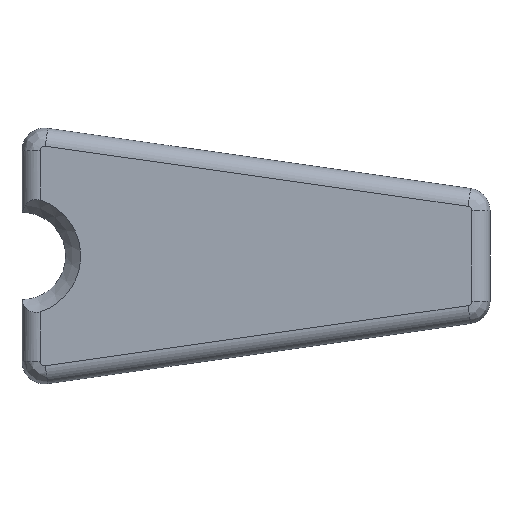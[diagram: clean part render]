
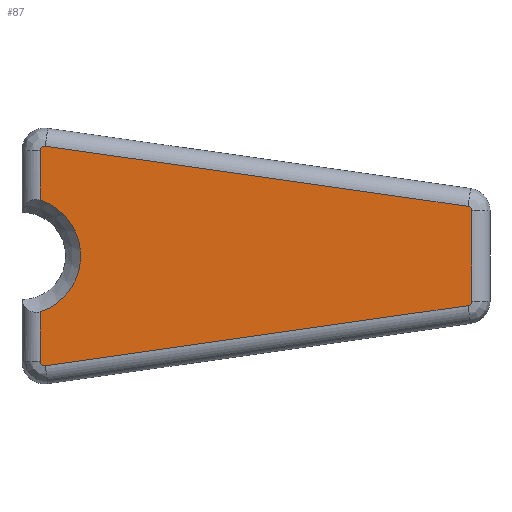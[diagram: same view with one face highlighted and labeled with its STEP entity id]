
A CAD part, top view. The second image highlights one B-rep face of the part: STEP entity #87.
In plain terms, the highlighted planar face has unit normal (0, 0, 1).
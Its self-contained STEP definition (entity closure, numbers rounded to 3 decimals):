
#87=ADVANCED_FACE('',(#170),#171,.T.);
#170=FACE_OUTER_BOUND('',#422,.T.);
#171=PLANE('',#423);
#422=EDGE_LOOP('',(#574,#575,#576,#577,#578,#579,#580,#581,#582,#583));
#423=AXIS2_PLACEMENT_3D('',#584,#585,#586);
#574=ORIENTED_EDGE('',*,*,#629,.T.);
#575=ORIENTED_EDGE('',*,*,#625,.T.);
#576=ORIENTED_EDGE('',*,*,#643,.T.);
#577=ORIENTED_EDGE('',*,*,#613,.T.);
#578=ORIENTED_EDGE('',*,*,#666,.T.);
#579=ORIENTED_EDGE('',*,*,#661,.T.);
#580=ORIENTED_EDGE('',*,*,#648,.T.);
#581=ORIENTED_EDGE('',*,*,#671,.T.);
#582=ORIENTED_EDGE('',*,*,#678,.T.);
#583=ORIENTED_EDGE('',*,*,#682,.T.);
#584=CARTESIAN_POINT('',(140.5,30.0,12.0));
#585=DIRECTION('',(0.0,0.0,1.0));
#586=DIRECTION('',(1.0,0.0,0.0));
#613=EDGE_CURVE('',#695,#693,#696,.T.);
#625=EDGE_CURVE('',#709,#713,#715,.T.);
#629=EDGE_CURVE('',#717,#709,#721,.T.);
#643=EDGE_CURVE('',#713,#695,#741,.F.);
#648=EDGE_CURVE('',#743,#748,#750,.T.);
#661=EDGE_CURVE('',#766,#743,#769,.T.);
#666=EDGE_CURVE('',#693,#766,#775,.T.);
#671=EDGE_CURVE('',#748,#779,#781,.T.);
#678=EDGE_CURVE('',#779,#788,#790,.T.);
#682=EDGE_CURVE('',#788,#717,#794,.T.);
#693=VERTEX_POINT('',#809);
#695=VERTEX_POINT('',#811);
#696=LINE('',#812,#813);
#709=VERTEX_POINT('',#862);
#713=VERTEX_POINT('',#867);
#715=LINE('',#894,#895);
#717=VERTEX_POINT('',#897);
#721=CIRCLE('',#901,3.0);
#741=CIRCLE('',#975,39.0);
#743=VERTEX_POINT('',#977);
#748=VERTEX_POINT('',#982);
#750=CIRCLE('',#984,3.0);
#766=VERTEX_POINT('',#1002);
#769=LINE('',#1006,#1007);
#775=CIRCLE('',#1013,3.0);
#779=VERTEX_POINT('',#1018);
#781=LINE('',#1020,#1021);
#788=VERTEX_POINT('',#1030);
#790=CIRCLE('',#1032,3.0);
#794=LINE('',#1036,#1037);
#809=CARTESIAN_POINT('',(-143.5,-70.0,12.0));
#811=CARTESIAN_POINT('',(-143.5,-37.108,12.0));
#812=CARTESIAN_POINT('',(-143.5,30.0,12.0));
#813=VECTOR('',#1046,1.0);
#862=CARTESIAN_POINT('',(-143.5,70.0,12.0));
#867=CARTESIAN_POINT('',(-143.5,37.108,12.0));
#894=CARTESIAN_POINT('',(-143.5,30.0,12.0));
#895=VECTOR('',#1057,1.0);
#897=CARTESIAN_POINT('',(-140.077,72.97,12.0));
#901=AXIS2_PLACEMENT_3D('',#1064,#1065,#1066);
#975=AXIS2_PLACEMENT_3D('',#1084,#1085,#1086);
#977=CARTESIAN_POINT('',(140.923,-32.97,12.0));
#982=CARTESIAN_POINT('',(143.5,-30.0,12.0));
#984=AXIS2_PLACEMENT_3D('',#1096,#1097,#1098);
#1002=CARTESIAN_POINT('',(-140.077,-72.97,12.0));
#1006=CARTESIAN_POINT('',(149.294,-31.778,12.0));
#1007=VECTOR('',#1120,1.0);
#1013=AXIS2_PLACEMENT_3D('',#1127,#1128,#1129);
#1018=CARTESIAN_POINT('',(143.5,30.0,12.0));
#1020=CARTESIAN_POINT('',(143.5,30.0,12.0));
#1021=VECTOR('',#1134,1.0);
#1030=CARTESIAN_POINT('',(140.923,32.97,12.0));
#1032=AXIS2_PLACEMENT_3D('',#1143,#1144,#1145);
#1036=CARTESIAN_POINT('',(140.923,32.97,12.0));
#1037=VECTOR('',#1149,1.0);
#1046=DIRECTION('',(0.,-1.0,0.0));
#1057=DIRECTION('',(0.,-1.0,0.0));
#1064=CARTESIAN_POINT('',(-140.5,70.0,12.0));
#1065=DIRECTION('',(0.0,0.0,1.0));
#1066=DIRECTION('',(1.0,0.0,0.0));
#1084=CARTESIAN_POINT('',(-155.5,0.0,12.0));
#1085=DIRECTION('',(0.0,0.0,1.0));
#1086=DIRECTION('',(1.0,0.0,0.0));
#1096=CARTESIAN_POINT('',(140.5,-30.0,12.0));
#1097=DIRECTION('',(0.0,0.0,1.0));
#1098=DIRECTION('',(1.0,0.0,0.0));
#1120=DIRECTION('',(0.99,0.141,0.0));
#1127=CARTESIAN_POINT('',(-140.5,-70.0,12.0));
#1128=DIRECTION('',(0.0,0.0,1.0));
#1129=DIRECTION('',(1.0,0.0,0.0));
#1134=DIRECTION('',(0.,1.0,0.0));
#1143=CARTESIAN_POINT('',(140.5,30.0,12.0));
#1144=DIRECTION('',(0.0,0.0,1.0));
#1145=DIRECTION('',(1.0,0.0,0.0));
#1149=DIRECTION('',(-0.99,0.141,0.0));
